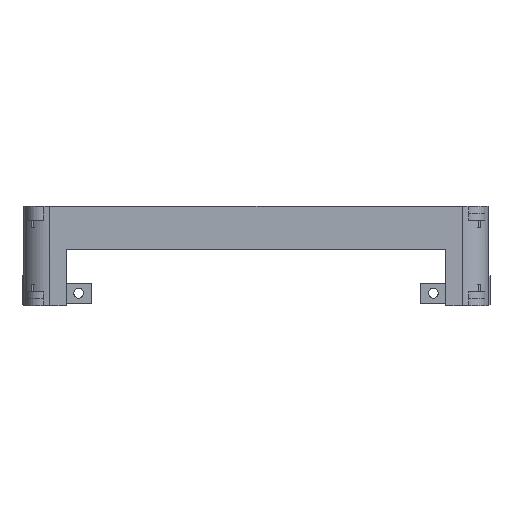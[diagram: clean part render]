
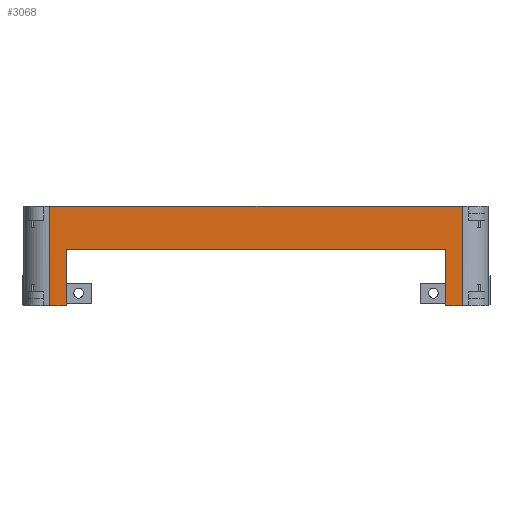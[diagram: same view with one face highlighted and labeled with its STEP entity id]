
A CAD part, front view. The second image highlights one B-rep face of the part: STEP entity #3068.
In plain terms, the highlighted planar face has unit normal (0, -1, 0).
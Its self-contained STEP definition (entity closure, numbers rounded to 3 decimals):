
#44 = PLANE('',#45);
#45 = AXIS2_PLACEMENT_3D('',#46,#47,#48);
#46 = CARTESIAN_POINT('',(-80.,-45.,26.9));
#47 = DIRECTION('',(0.,0.,1.));
#48 = DIRECTION('',(1.,0.,0.));
#72 = CYLINDRICAL_SURFACE('',#73,9.);
#73 = AXIS2_PLACEMENT_3D('',#74,#75,#76);
#74 = CARTESIAN_POINT('',(-71.,-36.,-7.3));
#75 = DIRECTION('',(0.,0.,1.));
#76 = DIRECTION('',(-1.,-0.,0.));
#100 = PLANE('',#101);
#101 = AXIS2_PLACEMENT_3D('',#102,#103,#104);
#102 = CARTESIAN_POINT('',(-80.,-45.,-7.3));
#103 = DIRECTION('',(0.,0.,1.));
#104 = DIRECTION('',(1.,0.,0.));
#461 = VERTEX_POINT('',#462);
#462 = CARTESIAN_POINT('',(-71.,-45.,26.9));
#484 = EDGE_CURVE('',#461,#485,#487,.T.);
#485 = VERTEX_POINT('',#486);
#486 = CARTESIAN_POINT('',(71.,-45.,26.9));
#487 = SURFACE_CURVE('',#488,(#492,#499),.PCURVE_S1.);
#488 = LINE('',#489,#490);
#489 = CARTESIAN_POINT('',(-80.,-45.,26.9));
#490 = VECTOR('',#491,1.);
#491 = DIRECTION('',(1.,0.,0.));
#492 = PCURVE('',#44,#493);
#493 = DEFINITIONAL_REPRESENTATION('',(#494),#498);
#494 = LINE('',#495,#496);
#495 = CARTESIAN_POINT('',(0.,0.));
#496 = VECTOR('',#497,1.);
#497 = DIRECTION('',(1.,0.));
#498 = ( GEOMETRIC_REPRESENTATION_CONTEXT(2) 
PARAMETRIC_REPRESENTATION_CONTEXT() REPRESENTATION_CONTEXT('2D SPACE',''
  ) );
#499 = PCURVE('',#500,#505);
#500 = PLANE('',#501);
#501 = AXIS2_PLACEMENT_3D('',#502,#503,#504);
#502 = CARTESIAN_POINT('',(-80.,-45.,-7.3));
#503 = DIRECTION('',(0.,1.,0.));
#504 = DIRECTION('',(0.,0.,1.));
#505 = DEFINITIONAL_REPRESENTATION('',(#506),#510);
#506 = LINE('',#507,#508);
#507 = CARTESIAN_POINT('',(34.2,0.));
#508 = VECTOR('',#509,1.);
#509 = DIRECTION('',(0.,1.));
#510 = ( GEOMETRIC_REPRESENTATION_CONTEXT(2) 
PARAMETRIC_REPRESENTATION_CONTEXT() REPRESENTATION_CONTEXT('2D SPACE',''
  ) );
#533 = CYLINDRICAL_SURFACE('',#534,9.);
#534 = AXIS2_PLACEMENT_3D('',#535,#536,#537);
#535 = CARTESIAN_POINT('',(71.,-36.,-7.3));
#536 = DIRECTION('',(0.,0.,1.));
#537 = DIRECTION('',(1.,0.,-0.));
#1255 = VERTEX_POINT('',#1256);
#1256 = CARTESIAN_POINT('',(-71.,-45.,-7.3));
#1278 = EDGE_CURVE('',#1255,#461,#1279,.T.);
#1279 = SURFACE_CURVE('',#1280,(#1284,#1291),.PCURVE_S1.);
#1280 = LINE('',#1281,#1282);
#1281 = CARTESIAN_POINT('',(-71.,-45.,-7.3));
#1282 = VECTOR('',#1283,1.);
#1283 = DIRECTION('',(0.,0.,1.));
#1284 = PCURVE('',#72,#1285);
#1285 = DEFINITIONAL_REPRESENTATION('',(#1286),#1290);
#1286 = LINE('',#1287,#1288);
#1287 = CARTESIAN_POINT('',(1.571,0.));
#1288 = VECTOR('',#1289,1.);
#1289 = DIRECTION('',(0.,1.));
#1290 = ( GEOMETRIC_REPRESENTATION_CONTEXT(2) 
PARAMETRIC_REPRESENTATION_CONTEXT() REPRESENTATION_CONTEXT('2D SPACE',''
  ) );
#1291 = PCURVE('',#500,#1292);
#1292 = DEFINITIONAL_REPRESENTATION('',(#1293),#1297);
#1293 = LINE('',#1294,#1295);
#1294 = CARTESIAN_POINT('',(0.,9.));
#1295 = VECTOR('',#1296,1.);
#1296 = DIRECTION('',(1.,0.));
#1297 = ( GEOMETRIC_REPRESENTATION_CONTEXT(2) 
PARAMETRIC_REPRESENTATION_CONTEXT() REPRESENTATION_CONTEXT('2D SPACE',''
  ) );
#2113 = EDGE_CURVE('',#1255,#2114,#2116,.T.);
#2114 = VERTEX_POINT('',#2115);
#2115 = CARTESIAN_POINT('',(-65.25,-45.,-7.3));
#2116 = SURFACE_CURVE('',#2117,(#2121,#2128),.PCURVE_S1.);
#2117 = LINE('',#2118,#2119);
#2118 = CARTESIAN_POINT('',(-80.,-45.,-7.3));
#2119 = VECTOR('',#2120,1.);
#2120 = DIRECTION('',(1.,0.,0.));
#2121 = PCURVE('',#100,#2122);
#2122 = DEFINITIONAL_REPRESENTATION('',(#2123),#2127);
#2123 = LINE('',#2124,#2125);
#2124 = CARTESIAN_POINT('',(0.,0.));
#2125 = VECTOR('',#2126,1.);
#2126 = DIRECTION('',(1.,0.));
#2127 = ( GEOMETRIC_REPRESENTATION_CONTEXT(2) 
PARAMETRIC_REPRESENTATION_CONTEXT() REPRESENTATION_CONTEXT('2D SPACE',''
  ) );
#2128 = PCURVE('',#500,#2129);
#2129 = DEFINITIONAL_REPRESENTATION('',(#2130),#2134);
#2130 = LINE('',#2131,#2132);
#2131 = CARTESIAN_POINT('',(0.,0.));
#2132 = VECTOR('',#2133,1.);
#2133 = DIRECTION('',(0.,1.));
#2134 = ( GEOMETRIC_REPRESENTATION_CONTEXT(2) 
PARAMETRIC_REPRESENTATION_CONTEXT() REPRESENTATION_CONTEXT('2D SPACE',''
  ) );
#2152 = PLANE('',#2153);
#2153 = AXIS2_PLACEMENT_3D('',#2154,#2155,#2156);
#2154 = CARTESIAN_POINT('',(-65.25,-45.,-7.45));
#2155 = DIRECTION('',(1.,0.,0.));
#2156 = DIRECTION('',(0.,0.,1.));
#3068 = ADVANCED_FACE('',(#3069),#500,.F.);
#3069 = FACE_BOUND('',#3070,.F.);
#3070 = EDGE_LOOP('',(#3071,#3072,#3073,#3074,#3097,#3125,#3153,#3181));
#3071 = ORIENTED_EDGE('',*,*,#2113,.F.);
#3072 = ORIENTED_EDGE('',*,*,#1278,.T.);
#3073 = ORIENTED_EDGE('',*,*,#484,.T.);
#3074 = ORIENTED_EDGE('',*,*,#3075,.F.);
#3075 = EDGE_CURVE('',#3076,#485,#3078,.T.);
#3076 = VERTEX_POINT('',#3077);
#3077 = CARTESIAN_POINT('',(71.,-45.,-7.3));
#3078 = SURFACE_CURVE('',#3079,(#3083,#3090),.PCURVE_S1.);
#3079 = LINE('',#3080,#3081);
#3080 = CARTESIAN_POINT('',(71.,-45.,-7.3));
#3081 = VECTOR('',#3082,1.);
#3082 = DIRECTION('',(0.,0.,1.));
#3083 = PCURVE('',#500,#3084);
#3084 = DEFINITIONAL_REPRESENTATION('',(#3085),#3089);
#3085 = LINE('',#3086,#3087);
#3086 = CARTESIAN_POINT('',(0.,151.));
#3087 = VECTOR('',#3088,1.);
#3088 = DIRECTION('',(1.,0.));
#3089 = ( GEOMETRIC_REPRESENTATION_CONTEXT(2) 
PARAMETRIC_REPRESENTATION_CONTEXT() REPRESENTATION_CONTEXT('2D SPACE',''
  ) );
#3090 = PCURVE('',#533,#3091);
#3091 = DEFINITIONAL_REPRESENTATION('',(#3092),#3096);
#3092 = LINE('',#3093,#3094);
#3093 = CARTESIAN_POINT('',(-1.571,0.));
#3094 = VECTOR('',#3095,1.);
#3095 = DIRECTION('',(-0.,1.));
#3096 = ( GEOMETRIC_REPRESENTATION_CONTEXT(2) 
PARAMETRIC_REPRESENTATION_CONTEXT() REPRESENTATION_CONTEXT('2D SPACE',''
  ) );
#3097 = ORIENTED_EDGE('',*,*,#3098,.F.);
#3098 = EDGE_CURVE('',#3099,#3076,#3101,.T.);
#3099 = VERTEX_POINT('',#3100);
#3100 = CARTESIAN_POINT('',(65.25,-45.,-7.3));
#3101 = SURFACE_CURVE('',#3102,(#3106,#3113),.PCURVE_S1.);
#3102 = LINE('',#3103,#3104);
#3103 = CARTESIAN_POINT('',(-80.,-45.,-7.3));
#3104 = VECTOR('',#3105,1.);
#3105 = DIRECTION('',(1.,0.,0.));
#3106 = PCURVE('',#500,#3107);
#3107 = DEFINITIONAL_REPRESENTATION('',(#3108),#3112);
#3108 = LINE('',#3109,#3110);
#3109 = CARTESIAN_POINT('',(0.,0.));
#3110 = VECTOR('',#3111,1.);
#3111 = DIRECTION('',(0.,1.));
#3112 = ( GEOMETRIC_REPRESENTATION_CONTEXT(2) 
PARAMETRIC_REPRESENTATION_CONTEXT() REPRESENTATION_CONTEXT('2D SPACE',''
  ) );
#3113 = PCURVE('',#3114,#3119);
#3114 = PLANE('',#3115);
#3115 = AXIS2_PLACEMENT_3D('',#3116,#3117,#3118);
#3116 = CARTESIAN_POINT('',(-80.,-45.,-7.3));
#3117 = DIRECTION('',(0.,0.,1.));
#3118 = DIRECTION('',(1.,0.,0.));
#3119 = DEFINITIONAL_REPRESENTATION('',(#3120),#3124);
#3120 = LINE('',#3121,#3122);
#3121 = CARTESIAN_POINT('',(0.,0.));
#3122 = VECTOR('',#3123,1.);
#3123 = DIRECTION('',(1.,0.));
#3124 = ( GEOMETRIC_REPRESENTATION_CONTEXT(2) 
PARAMETRIC_REPRESENTATION_CONTEXT() REPRESENTATION_CONTEXT('2D SPACE',''
  ) );
#3125 = ORIENTED_EDGE('',*,*,#3126,.T.);
#3126 = EDGE_CURVE('',#3099,#3127,#3129,.T.);
#3127 = VERTEX_POINT('',#3128);
#3128 = CARTESIAN_POINT('',(65.25,-45.,12.05));
#3129 = SURFACE_CURVE('',#3130,(#3134,#3141),.PCURVE_S1.);
#3130 = LINE('',#3131,#3132);
#3131 = CARTESIAN_POINT('',(65.25,-45.,-7.45));
#3132 = VECTOR('',#3133,1.);
#3133 = DIRECTION('',(0.,0.,1.));
#3134 = PCURVE('',#500,#3135);
#3135 = DEFINITIONAL_REPRESENTATION('',(#3136),#3140);
#3136 = LINE('',#3137,#3138);
#3137 = CARTESIAN_POINT('',(-0.15,145.25));
#3138 = VECTOR('',#3139,1.);
#3139 = DIRECTION('',(1.,0.));
#3140 = ( GEOMETRIC_REPRESENTATION_CONTEXT(2) 
PARAMETRIC_REPRESENTATION_CONTEXT() REPRESENTATION_CONTEXT('2D SPACE',''
  ) );
#3141 = PCURVE('',#3142,#3147);
#3142 = PLANE('',#3143);
#3143 = AXIS2_PLACEMENT_3D('',#3144,#3145,#3146);
#3144 = CARTESIAN_POINT('',(65.25,-45.,-7.45));
#3145 = DIRECTION('',(1.,0.,0.));
#3146 = DIRECTION('',(0.,0.,1.));
#3147 = DEFINITIONAL_REPRESENTATION('',(#3148),#3152);
#3148 = LINE('',#3149,#3150);
#3149 = CARTESIAN_POINT('',(0.,0.));
#3150 = VECTOR('',#3151,1.);
#3151 = DIRECTION('',(1.,0.));
#3152 = ( GEOMETRIC_REPRESENTATION_CONTEXT(2) 
PARAMETRIC_REPRESENTATION_CONTEXT() REPRESENTATION_CONTEXT('2D SPACE',''
  ) );
#3153 = ORIENTED_EDGE('',*,*,#3154,.F.);
#3154 = EDGE_CURVE('',#3155,#3127,#3157,.T.);
#3155 = VERTEX_POINT('',#3156);
#3156 = CARTESIAN_POINT('',(-65.25,-45.,12.05));
#3157 = SURFACE_CURVE('',#3158,(#3162,#3169),.PCURVE_S1.);
#3158 = LINE('',#3159,#3160);
#3159 = CARTESIAN_POINT('',(-65.25,-45.,12.05));
#3160 = VECTOR('',#3161,1.);
#3161 = DIRECTION('',(1.,0.,0.));
#3162 = PCURVE('',#500,#3163);
#3163 = DEFINITIONAL_REPRESENTATION('',(#3164),#3168);
#3164 = LINE('',#3165,#3166);
#3165 = CARTESIAN_POINT('',(19.35,14.75));
#3166 = VECTOR('',#3167,1.);
#3167 = DIRECTION('',(0.,1.));
#3168 = ( GEOMETRIC_REPRESENTATION_CONTEXT(2) 
PARAMETRIC_REPRESENTATION_CONTEXT() REPRESENTATION_CONTEXT('2D SPACE',''
  ) );
#3169 = PCURVE('',#3170,#3175);
#3170 = PLANE('',#3171);
#3171 = AXIS2_PLACEMENT_3D('',#3172,#3173,#3174);
#3172 = CARTESIAN_POINT('',(-65.25,-45.,12.05));
#3173 = DIRECTION('',(0.,0.,1.));
#3174 = DIRECTION('',(1.,0.,0.));
#3175 = DEFINITIONAL_REPRESENTATION('',(#3176),#3180);
#3176 = LINE('',#3177,#3178);
#3177 = CARTESIAN_POINT('',(0.,0.));
#3178 = VECTOR('',#3179,1.);
#3179 = DIRECTION('',(1.,0.));
#3180 = ( GEOMETRIC_REPRESENTATION_CONTEXT(2) 
PARAMETRIC_REPRESENTATION_CONTEXT() REPRESENTATION_CONTEXT('2D SPACE',''
  ) );
#3181 = ORIENTED_EDGE('',*,*,#3182,.F.);
#3182 = EDGE_CURVE('',#2114,#3155,#3183,.T.);
#3183 = SURFACE_CURVE('',#3184,(#3188,#3195),.PCURVE_S1.);
#3184 = LINE('',#3185,#3186);
#3185 = CARTESIAN_POINT('',(-65.25,-45.,-7.45));
#3186 = VECTOR('',#3187,1.);
#3187 = DIRECTION('',(0.,0.,1.));
#3188 = PCURVE('',#500,#3189);
#3189 = DEFINITIONAL_REPRESENTATION('',(#3190),#3194);
#3190 = LINE('',#3191,#3192);
#3191 = CARTESIAN_POINT('',(-0.15,14.75));
#3192 = VECTOR('',#3193,1.);
#3193 = DIRECTION('',(1.,0.));
#3194 = ( GEOMETRIC_REPRESENTATION_CONTEXT(2) 
PARAMETRIC_REPRESENTATION_CONTEXT() REPRESENTATION_CONTEXT('2D SPACE',''
  ) );
#3195 = PCURVE('',#2152,#3196);
#3196 = DEFINITIONAL_REPRESENTATION('',(#3197),#3201);
#3197 = LINE('',#3198,#3199);
#3198 = CARTESIAN_POINT('',(0.,0.));
#3199 = VECTOR('',#3200,1.);
#3200 = DIRECTION('',(1.,0.));
#3201 = ( GEOMETRIC_REPRESENTATION_CONTEXT(2) 
PARAMETRIC_REPRESENTATION_CONTEXT() REPRESENTATION_CONTEXT('2D SPACE',''
  ) );
